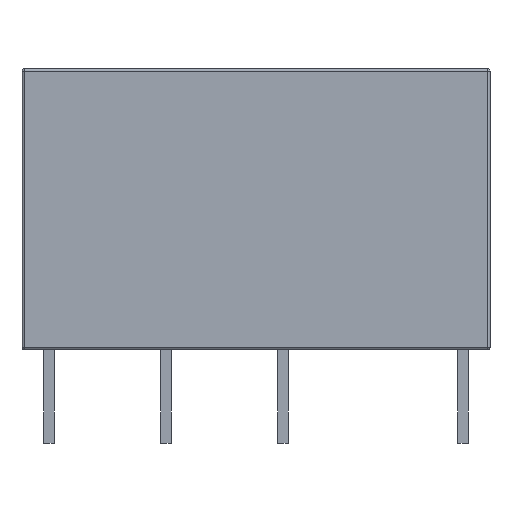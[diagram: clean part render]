
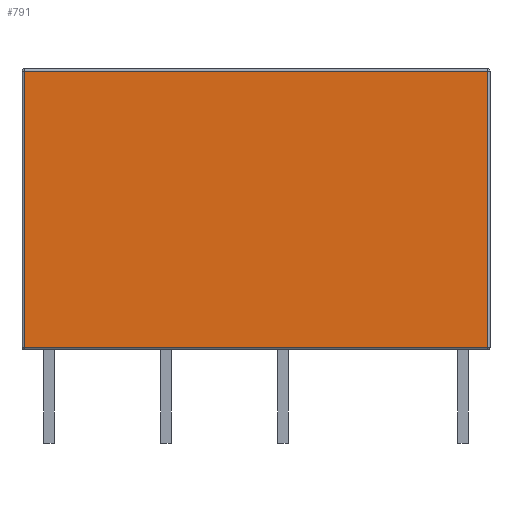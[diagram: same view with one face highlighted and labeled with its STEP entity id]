
A CAD part, front view. The second image highlights one B-rep face of the part: STEP entity #791.
In plain terms, the highlighted planar face has unit normal (0, -1, 0).
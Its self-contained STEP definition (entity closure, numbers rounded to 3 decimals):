
#373=CARTESIAN_POINT('Vertex',(9.9,-4.925,11.9)) ;
#411=CARTESIAN_POINT('Vertex',(9.9,-4.925,0.1)) ;
#421=CARTESIAN_POINT('Line Origine',(9.9,-4.925,6.)) ;
#463=CARTESIAN_POINT('Vertex',(-9.9,-4.925,0.1)) ;
#466=CARTESIAN_POINT('Line Origine',(0.,-4.925,0.1)) ;
#768=CARTESIAN_POINT('Axis2P3D Location',(10.,-4.925,0.)) ;
#773=CARTESIAN_POINT('Line Origine',(0.,-4.925,11.9)) ;
#777=CARTESIAN_POINT('Vertex',(-9.9,-4.925,11.9)) ;
#780=CARTESIAN_POINT('Line Origine',(-9.9,-4.925,6.)) ;
#422=DIRECTION('Vector Direction',(0.,0.,1.)) ;
#467=DIRECTION('Vector Direction',(-1.,0.,0.)) ;
#769=DIRECTION('Axis2P3D Direction',(0.,1.,-0.)) ;
#770=DIRECTION('Axis2P3D XDirection',(-1.,0.,0.)) ;
#774=DIRECTION('Vector Direction',(1.,0.,0.)) ;
#781=DIRECTION('Vector Direction',(0.,0.,1.)) ;
#771=AXIS2_PLACEMENT_3D('Plane Axis2P3D',#768,#769,#770) ;
#786=ORIENTED_EDGE('',*,*,#470,.T.) ;
#787=ORIENTED_EDGE('',*,*,#425,.T.) ;
#788=ORIENTED_EDGE('',*,*,#779,.F.) ;
#789=ORIENTED_EDGE('',*,*,#784,.F.) ;
#423=VECTOR('Line Direction',#422,1.) ;
#468=VECTOR('Line Direction',#467,1.) ;
#775=VECTOR('Line Direction',#774,1.) ;
#782=VECTOR('Line Direction',#781,1.) ;
#791=ADVANCED_FACE('PartBody',(#790),#772,.F.) ;
#425=EDGE_CURVE('',#412,#374,#424,.T.) ;
#470=EDGE_CURVE('',#464,#412,#469,.F.) ;
#779=EDGE_CURVE('',#778,#374,#776,.T.) ;
#784=EDGE_CURVE('',#464,#778,#783,.T.) ;
#785=EDGE_LOOP('',(#786,#787,#788,#789)) ;
#790=FACE_OUTER_BOUND('',#785,.T.) ;
#424=LINE('Line',#421,#423) ;
#469=LINE('Line',#466,#468) ;
#776=LINE('Line',#773,#775) ;
#783=LINE('Line',#780,#782) ;
#772=PLANE('Plane',#771) ;
#374=VERTEX_POINT('',#373) ;
#412=VERTEX_POINT('',#411) ;
#464=VERTEX_POINT('',#463) ;
#778=VERTEX_POINT('',#777) ;
